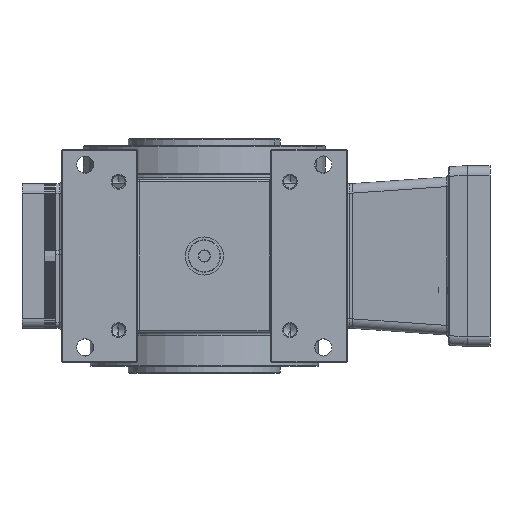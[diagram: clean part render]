
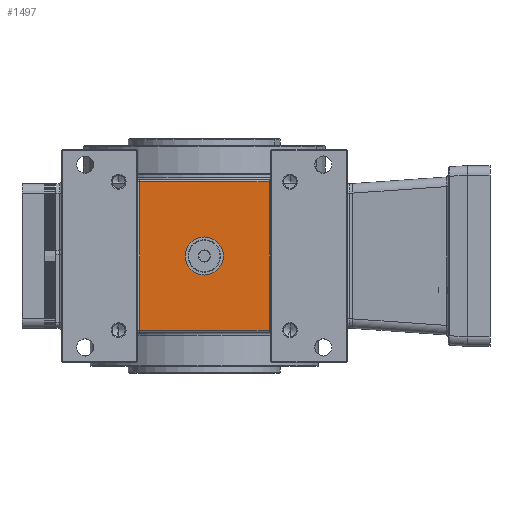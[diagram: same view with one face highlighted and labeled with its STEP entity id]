
A CAD part, front view. The second image highlights one B-rep face of the part: STEP entity #1497.
In plain terms, the highlighted planar face has unit normal (0, -1, 0).
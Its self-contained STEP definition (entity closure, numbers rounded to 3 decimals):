
#1497 = ADVANCED_FACE ( 'NONE', ( #10509, #21405 ), #70543, .F. ) ;
#2866 = CARTESIAN_POINT ( 'NONE',  ( 0., -83.5, -10. ) ) ;
#2879 = DIRECTION ( 'NONE',  ( 0., 0., -1. ) ) ;
#3471 = VECTOR ( 'NONE', #2879, 1000. ) ;
#3596 = DIRECTION ( 'NONE',  ( 0., 0., 1. ) ) ;
#4412 = DIRECTION ( 'NONE',  ( 0., -1., 0. ) ) ;
#8893 = LINE ( 'NONE', #42723, #58469 ) ;
#9534 = DIRECTION ( 'NONE',  ( 0., 0., -1. ) ) ;
#10509 = FACE_BOUND ( 'NONE', #58143, .T. ) ;
#10684 = CARTESIAN_POINT ( 'NONE',  ( -34., -83.5, 39. ) ) ;
#10994 = ORIENTED_EDGE ( 'NONE', *, *, #27495, .T. ) ;
#14254 = DIRECTION ( 'NONE',  ( 0., -1., 0. ) ) ;
#14914 = CIRCLE ( 'NONE', #52109, 10. ) ;
#18340 = AXIS2_PLACEMENT_3D ( 'NONE', #21045, #64727, #3596 ) ;
#18433 = CARTESIAN_POINT ( 'NONE',  ( -75., -83.5, 39. ) ) ;
#20112 = VECTOR ( 'NONE', #23202, 1000. ) ;
#21045 = CARTESIAN_POINT ( 'NONE',  ( -75., -83.5, 40. ) ) ;
#21405 = FACE_OUTER_BOUND ( 'NONE', #68399, .T. ) ;
#23202 = DIRECTION ( 'NONE',  ( -1., 0., 0. ) ) ;
#24003 = CARTESIAN_POINT ( 'NONE',  ( 0., -83.5, 10. ) ) ;
#24896 = VERTEX_POINT ( 'NONE', #40475 ) ;
#27495 = EDGE_CURVE ( 'NONE', #24896, #51908, #68268, .T. ) ;
#28487 = CARTESIAN_POINT ( 'NONE',  ( 34., -83.5, 39. ) ) ;
#28675 = LINE ( 'NONE', #18433, #20112 ) ;
#29767 = VERTEX_POINT ( 'NONE', #24003 ) ;
#30547 = LINE ( 'NONE', #57491, #3471 ) ;
#31096 = DIRECTION ( 'NONE',  ( 1., 0., 0. ) ) ;
#32304 = ORIENTED_EDGE ( 'NONE', *, *, #52830, .T. ) ;
#38994 = EDGE_CURVE ( 'NONE', #29767, #62706, #45699, .T. ) ;
#40475 = CARTESIAN_POINT ( 'NONE',  ( 34., -83.5, -39. ) ) ;
#40629 = CARTESIAN_POINT ( 'NONE',  ( 34., -83.5, 40. ) ) ;
#42723 = CARTESIAN_POINT ( 'NONE',  ( 35., -83.5, -39. ) ) ;
#44932 = EDGE_CURVE ( 'NONE', #51772, #51663, #30547, .T. ) ;
#45699 = CIRCLE ( 'NONE', #45866, 10. ) ;
#45866 = AXIS2_PLACEMENT_3D ( 'NONE', #52114, #14254, #46653 ) ;
#46653 = DIRECTION ( 'NONE',  ( 0., 0., -1. ) ) ;
#47550 = ORIENTED_EDGE ( 'NONE', *, *, #44932, .T. ) ;
#49790 = ORIENTED_EDGE ( 'NONE', *, *, #52722, .T. ) ;
#51663 = VERTEX_POINT ( 'NONE', #65281 ) ;
#51772 = VERTEX_POINT ( 'NONE', #10684 ) ;
#51908 = VERTEX_POINT ( 'NONE', #28487 ) ;
#52109 = AXIS2_PLACEMENT_3D ( 'NONE', #59736, #4412, #9534 ) ;
#52114 = CARTESIAN_POINT ( 'NONE',  ( 0., -83.5, 0. ) ) ;
#52722 = EDGE_CURVE ( 'NONE', #51908, #51772, #28675, .T. ) ;
#52830 = EDGE_CURVE ( 'NONE', #51663, #24896, #8893, .T. ) ;
#54911 = ORIENTED_EDGE ( 'NONE', *, *, #38994, .F. ) ;
#57294 = ORIENTED_EDGE ( 'NONE', *, *, #58502, .F. ) ;
#57491 = CARTESIAN_POINT ( 'NONE',  ( -34., -83.5, 40. ) ) ;
#58143 = EDGE_LOOP ( 'NONE', ( #57294, #54911 ) ) ;
#58469 = VECTOR ( 'NONE', #31096, 1000. ) ;
#58502 = EDGE_CURVE ( 'NONE', #62706, #29767, #14914, .T. ) ;
#59736 = CARTESIAN_POINT ( 'NONE',  ( 0., -83.5, 0. ) ) ;
#62706 = VERTEX_POINT ( 'NONE', #2866 ) ;
#62835 = DIRECTION ( 'NONE',  ( 0., 0., 1. ) ) ;
#64727 = DIRECTION ( 'NONE',  ( 0., 1., 0. ) ) ;
#65281 = CARTESIAN_POINT ( 'NONE',  ( -34., -83.5, -39. ) ) ;
#67578 = VECTOR ( 'NONE', #62835, 1000. ) ;
#68268 = LINE ( 'NONE', #40629, #67578 ) ;
#68399 = EDGE_LOOP ( 'NONE', ( #49790, #47550, #32304, #10994 ) ) ;
#70543 = PLANE ( 'NONE',  #18340 ) ;
